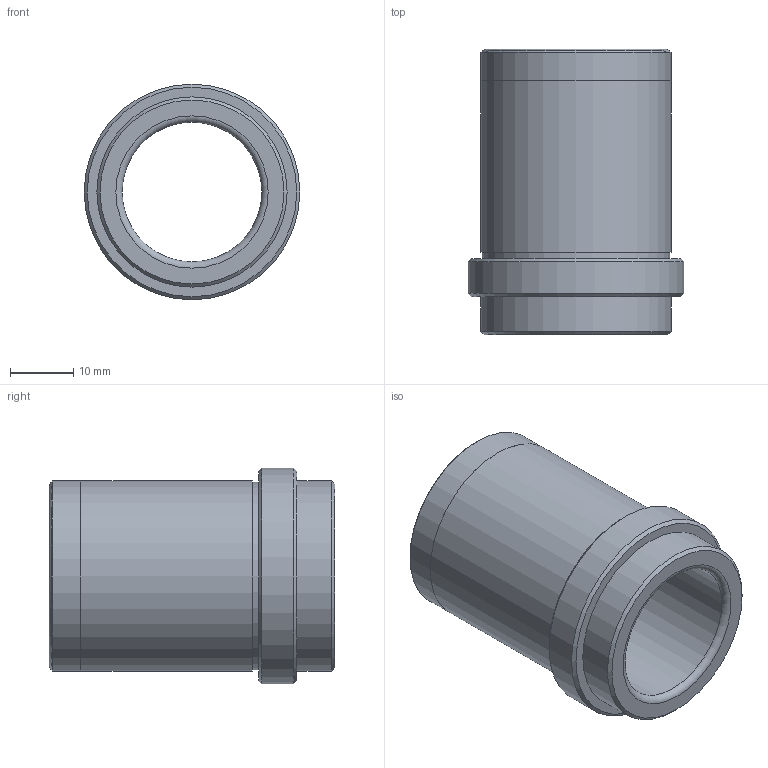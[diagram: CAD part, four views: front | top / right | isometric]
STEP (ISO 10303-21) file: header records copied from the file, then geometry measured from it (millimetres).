
FILE_DESCRIPTION( ( 'STEP AP203' ), '1' );
FILE_NAME( 'C:/Documents and Settings/EXPER/Desktop/Cuma/24 03 2009/D28/D28_16X33.step', '2003-01-02T03:45:19', ( ' ' ), ( ' ' ), 'XStep 1.0', ' ', ' ' );
FILE_SCHEMA( ( 'CONFIG_CONTROL_DESIGN' ) );
Length unit declared in the file: metre
Products named in the file (1): 1
Bounding box: 34 x 45 x 34 mm (x, y, z)
Volume: 15793.3 mm3; surface area: 8345.3 mm2
Topology: 1 solids, 1 shells, 19 faces, 32 edges, 19 vertices
Faces by surface type: plane 6, cylinder 6, cone 4, torus 3
Full cylindrical faces by diameter (mm): 22 x1, 29.5 x1, 29.98 x2, 30 x1, 34 x1
Entity records: 433 total; most frequent: DIRECTION 78, CARTESIAN_POINT 58, AXIS2_PLACEMENT_3D 39, EDGE_LOOP 38, ORIENTED_EDGE 38, FACE_OUTER_BOUND 28, ADVANCED_FACE 19, EDGE_CURVE 19
